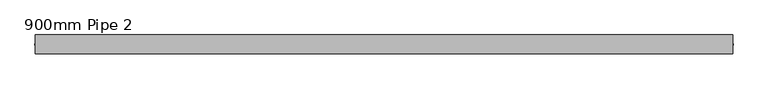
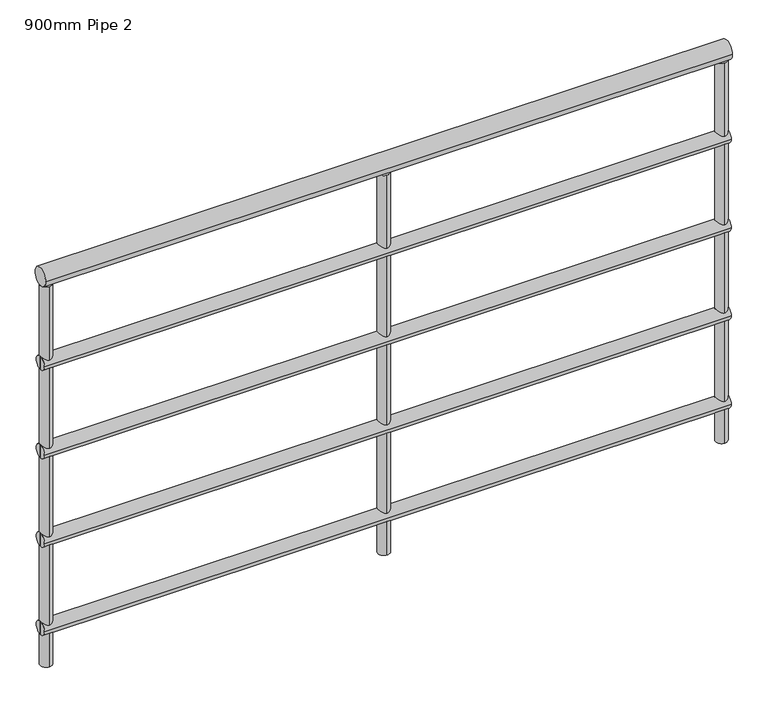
"""IFC4 building model written with IfcOpenShell, lengths in millimetres: railing geometry, 900mm Pipe 2."""

import ifcopenshell
import ifcopenshell.guid

model = None  # the IFC model being written
_history = None  # IfcOwnerHistory: only IFC2X3 demands one
_inside = {}  # id of a spatial element -> (the spatial element, [elements in it])
_under = {}  # id of a project, library or spatial element -> (it, [spatial elements below it])
_declared = {}  # id of a project -> (the project, [libraries it declares])
_typed = {}  # id of a type object -> (the type object, [elements of that type])
_made_of = {}  # id of a material, layer set ... -> (it, [elements and type objects made of it])


def new_model(schema):
    """Start an empty IFC model of exactly this schema.

    Asked for "IFC4X3", IfcOpenShell would pick the latest addendum, in which some entities
    have other attributes; the version numbers below select the first issue.
    IFC2X3 requires an IfcOwnerHistory on every rooted entity: one is made here for all.
    """
    global model, _history
    if schema == "IFC4X3":
        model = ifcopenshell.file(schema_version=(4, 3, 0, 0))
    else:
        model = ifcopenshell.file(schema=schema)
    _inside.clear()
    _under.clear()
    _declared.clear()
    _typed.clear()
    _made_of.clear()
    _history = None
    if model.schema == "IFC2X3":
        org = make("IfcOrganization", Name="unknown")
        user = make(
            "IfcPersonAndOrganization",
            ThePerson=make("IfcPerson", FamilyName="unknown"),
            TheOrganization=org,
        )
        app = make(
            "IfcApplication",
            ApplicationDeveloper=org,
            Version="unknown",
            ApplicationFullName="unknown",
            ApplicationIdentifier="unknown",
        )
        _history = make(
            "IfcOwnerHistory",
            OwningUser=user,
            OwningApplication=app,
            ChangeAction="ADDED",
            CreationDate=0,
        )
    return model


def make(cls, **values):
    """One entity of the class cls with the attributes given. An attribute that is None is left unset."""
    return model.create_entity(
        cls, **{name: value for name, value in values.items() if value is not None}
    )


def rooted(cls, **values):
    """An entity with a GlobalId (a new one), such as an element, a storey or a relation."""
    return make(cls, GlobalId=ifcopenshell.guid.new(), OwnerHistory=_history, **values)


def si_unit(unit_type, name, prefix=None):
    """IfcSIUnit, for example si_unit("LENGTHUNIT", "METRE", prefix="MILLI")."""
    return make("IfcSIUnit", UnitType=unit_type, Prefix=prefix, Name=name)


def assignment(units):
    """IfcUnitAssignment: the units of a project."""
    return None if units is None else make("IfcUnitAssignment", Units=units)


def point(xyz):
    """IfcCartesianPoint."""
    return None if xyz is None else make("IfcCartesianPoint", Coordinates=xyz)


def direction(xyz):
    """IfcDirection."""
    return None if xyz is None else make("IfcDirection", DirectionRatios=xyz)


def frame(location, z_axis=None, x_axis=None):
    """IfcAxis2Placement3D, a coordinate frame: its origin and axes. An axis left out is left unset."""
    return make(
        "IfcAxis2Placement3D",
        Location=point(location),
        Axis=direction(z_axis),
        RefDirection=direction(x_axis),
    )


def frame_2d(location, x_axis=None):
    """IfcAxis2Placement2D, a coordinate frame in the plane: its origin and x axis."""
    return make(
        "IfcAxis2Placement2D", Location=point(location), RefDirection=direction(x_axis)
    )


def origin():
    """The frame at (0, 0, 0) with its axes left unset."""
    return frame((0.0, 0.0, 0.0))


def origin_with_axes():
    """The frame at (0, 0, 0) with the z axis (0, 0, 1) and the x axis (1, 0, 0) written out."""
    return frame((0.0, 0.0, 0.0), z_axis=(0.0, 0.0, 1.0), x_axis=(1.0, 0.0, 0.0))


def place(relative_to, where):
    """IfcLocalPlacement: puts the frame where relative to a parent placement (None: the world)."""
    return make(
        "IfcLocalPlacement", PlacementRelTo=relative_to, RelativePlacement=where
    )


def context(
    kind, dimensions, precision=None, world=None, true_north=None, identifier=None
):
    """IfcGeometricRepresentationContext, for example the 3D "Model" context."""
    return make(
        "IfcGeometricRepresentationContext",
        ContextIdentifier=identifier,
        ContextType=kind,
        CoordinateSpaceDimension=dimensions,
        Precision=precision,
        WorldCoordinateSystem=world,
        TrueNorth=true_north,
    )


def project(units=None, contexts=None):
    """IfcProject with its units and contexts."""
    return rooted(
        "IfcProject",
        Name="project",
        RepresentationContexts=contexts,
        UnitsInContext=assignment(units),
    )


def spatial(cls, under=None, at=None, **own):
    """A site, building, storey or space (cls), placed at a placement, below another one or the project."""
    s = rooted(cls, ObjectPlacement=at, **own)
    if under is not None:
        _under.setdefault(under.id(), (under, []))[1].append(s)
    return s


def circle_curve(where, radius):
    """IfcCircle in the frame where."""
    return make("IfcCircle", Position=where, Radius=radius)


def trimmed(basis, trim1, trim2, sense, master):
    """IfcTrimmedCurve: the piece of a basis curve between two trims."""
    return make(
        "IfcTrimmedCurve",
        BasisCurve=basis,
        Trim1=trim1,
        Trim2=trim2,
        SenseAgreement=sense,
        MasterRepresentation=master,
    )


def segment(curve, same_sense, transition):
    """IfcCompositeCurveSegment."""
    return make(
        "IfcCompositeCurveSegment",
        Transition=transition,
        SameSense=same_sense,
        ParentCurve=curve,
    )


def composite_curve(segments, self_intersect=None):
    """IfcCompositeCurve: segments joined end to end."""
    return make("IfcCompositeCurve", Segments=segments, SelfIntersect=self_intersect)


def outline(outer, holes=None, kind="AREA"):
    """IfcArbitraryClosedProfileDef: a profile drawn as a closed curve; with holes, ...WithVoids."""
    if holes is None:
        return make("IfcArbitraryClosedProfileDef", ProfileType=kind, OuterCurve=outer)
    return make(
        "IfcArbitraryProfileDefWithVoids",
        ProfileType=kind,
        OuterCurve=outer,
        InnerCurves=holes,
    )


def extrude(swept, where, along, depth):
    """IfcExtrudedAreaSolid: the profile swept, set in the frame where, extruded along a direction by depth."""
    return make(
        "IfcExtrudedAreaSolid",
        SweptArea=swept,
        Position=where,
        ExtrudedDirection=direction(along),
        Depth=depth,
    )


def shape(context_of_items, identifier, shape_type, items):
    """IfcShapeRepresentation: the items that make up one representation, for example the "Body"."""
    return make(
        "IfcShapeRepresentation",
        ContextOfItems=context_of_items,
        RepresentationIdentifier=identifier,
        RepresentationType=shape_type,
        Items=items,
    )


def source(mapping_origin, context_of_items, identifier, shape_type, items):
    """IfcRepresentationMap: a shape defined once, which mapped items show again and again."""
    return make(
        "IfcRepresentationMap",
        MappingOrigin=mapping_origin,
        MappedRepresentation=shape(context_of_items, identifier, shape_type, items),
    )


def transform(
    local_origin,
    x_axis=None,
    y_axis=None,
    z_axis=None,
    scale=None,
    scale2=None,
    scale3=None,
    uniform=True,
):
    """IfcCartesianTransformationOperator3D, or its non-uniform kind. x_axis, y_axis, z_axis: its Axis1, 2, 3."""
    if uniform:
        return make(
            "IfcCartesianTransformationOperator3D",
            Axis1=direction(x_axis),
            Axis2=direction(y_axis),
            LocalOrigin=point(local_origin),
            Scale=scale,
            Axis3=direction(z_axis),
        )
    return make(
        "IfcCartesianTransformationOperator3DnonUniform",
        Axis1=direction(x_axis),
        Axis2=direction(y_axis),
        LocalOrigin=point(local_origin),
        Scale=scale,
        Axis3=direction(z_axis),
        Scale2=scale2,
        Scale3=scale3,
    )


def mapped(mapping_source, mapping_target):
    """IfcMappedItem: shows the shape of a source again, moved by a transform."""
    return make(
        "IfcMappedItem", MappingSource=mapping_source, MappingTarget=mapping_target
    )


def made_of(thing, what):
    """Note that an element or type object is made of a material, layer set ...; save() writes the relation."""
    if what is not None:
        _made_of.setdefault(what.id(), (what, []))[1].append(thing)
    return thing


def element(
    cls,
    number,
    at=None,
    inside=None,
    cuts=None,
    type_object=None,
    material=None,
    context=None,
    identifier="Body",
    shape_type=None,
    held_by="IfcProductDefinitionShape",
    body=None,
    shapes=None,
    **own,
):
    """One element of the class cls, such as IfcWall. Its Tag is "e" and its number.

    at: its placement. inside: the storey or other place that contains it. cuts: it is an
    opening in that element (IfcRelVoidsElement). A single representation is given by context,
    identifier, shape_type and body (its items); several are given by shapes. held_by: the class
    of the entity that holds the representations. save() writes the other relations.
    """
    e = rooted(cls, Tag="e%d" % number, ObjectPlacement=at, **own)
    if body is not None:
        shapes = [shape(context, identifier, shape_type, body)]
    if shapes is not None:
        e.Representation = make(held_by, Representations=shapes)
    if inside is not None:
        _inside.setdefault(inside.id(), (inside, []))[1].append(e)
    if cuts is not None:
        rooted(
            "IfcRelVoidsElement", RelatingBuildingElement=cuts, RelatedOpeningElement=e
        )
    if type_object is not None:
        _typed.setdefault(type_object.id(), (type_object, []))[1].append(e)
    return made_of(e, material)


def aggregate(whole, parts):
    """IfcRelAggregates: a whole, such as a stair, and the parts it consists of."""
    return rooted("IfcRelAggregates", RelatingObject=whole, RelatedObjects=parts)


def save(model, path):
    """Write the relations noted so far, then the file.

    IfcRelAggregates (storeys below a building ...), IfcRelContainedInSpatialStructure (elements
    in a storey), IfcRelDefinesByType, IfcRelAssociatesMaterial and IfcRelDeclares: one each for
    every whole, place, type object, material and project.
    """
    for whole, parts in _under.values():
        aggregate(whole, parts)
    for where, things in _inside.values():
        rooted(
            "IfcRelContainedInSpatialStructure",
            RelatedElements=things,
            RelatingStructure=where,
        )
    for kind, things in _typed.values():
        rooted("IfcRelDefinesByType", RelatedObjects=things, RelatingType=kind)
    for what, things in _made_of.values():
        rooted("IfcRelAssociatesMaterial", RelatedObjects=things, RelatingMaterial=what)
    for by, libraries in _declared.values():
        rooted("IfcRelDeclares", RelatingContext=by, RelatedDefinitions=libraries)
    model.write(path)


def railing_900mm_pipe_2_0036318b(model_context):
    return source(origin(), model_context, "Body", "SweptSolid", [
        extrude(outline(composite_curve([segment(trimmed(circle_curve(frame_2d((6283.1084635, 880.0)), 20.0), [point((6263.1084635, 880.0))], [point((6303.1084635, 880.0))], False, "CARTESIAN"), True, "CONTINUOUS"), segment(trimmed(circle_curve(frame_2d((6283.1084635, 880.0)), 20.0), [point((6303.1084635, 880.0))], [point((6263.1084635, 880.0))], False, "CARTESIAN"), True, "CONTINUOUS")], self_intersect=False)), frame((-3533.0419606, 0.0, 0.0), z_axis=(1.0, 0.0, 0.0), x_axis=(0.0, 1.0, 0.0)), (0.0, 0.0, 1.0), 1471.2152784),
        extrude(outline(composite_curve([segment(trimmed(circle_curve(frame_2d((6283.1084635, 685.0)), 15.0), [point((6268.1084635, 685.0))], [point((6298.1084635, 685.0))], False, "CARTESIAN"), True, "CONTINUOUS"), segment(trimmed(circle_curve(frame_2d((6283.1084635, 685.0)), 15.0), [point((6298.1084635, 685.0))], [point((6268.1084635, 685.0))], False, "CARTESIAN"), True, "CONTINUOUS")], self_intersect=False)), frame((-3533.0419606, 0.0, 0.0), z_axis=(1.0, 0.0, 0.0), x_axis=(0.0, 1.0, 0.0)), (0.0, 0.0, 1.0), 1471.2152784),
        extrude(outline(composite_curve([segment(trimmed(circle_curve(frame_2d((6283.1084635, 485.0)), 15.0), [point((6268.1084635, 485.0))], [point((6298.1084635, 485.0))], False, "CARTESIAN"), True, "CONTINUOUS"), segment(trimmed(circle_curve(frame_2d((6283.1084635, 485.0)), 15.0), [point((6298.1084635, 485.0))], [point((6268.1084635, 485.0))], False, "CARTESIAN"), True, "CONTINUOUS")], self_intersect=False)), frame((-3533.0419606, 0.0, 0.0), z_axis=(1.0, 0.0, 0.0), x_axis=(0.0, 1.0, 0.0)), (0.0, 0.0, 1.0), 1471.2152784),
        extrude(outline(composite_curve([segment(trimmed(circle_curve(frame_2d((6283.1084635, 285.0)), 15.0), [point((6268.1084635, 285.0))], [point((6298.1084635, 285.0))], False, "CARTESIAN"), True, "CONTINUOUS"), segment(trimmed(circle_curve(frame_2d((6283.1084635, 285.0)), 15.0), [point((6298.1084635, 285.0))], [point((6268.1084635, 285.0))], False, "CARTESIAN"), True, "CONTINUOUS")], self_intersect=False)), frame((-3533.0419606, 0.0, 0.0), z_axis=(1.0, 0.0, 0.0), x_axis=(0.0, 1.0, 0.0)), (0.0, 0.0, 1.0), 1471.2152784),
        extrude(outline(composite_curve([segment(trimmed(circle_curve(frame_2d((6283.1084635, 85.0)), 15.0), [point((6268.1084635, 85.0))], [point((6298.1084635, 85.0))], False, "CARTESIAN"), True, "CONTINUOUS"), segment(trimmed(circle_curve(frame_2d((6283.1084635, 85.0)), 15.0), [point((6298.1084635, 85.0))], [point((6268.1084635, 85.0))], False, "CARTESIAN"), True, "CONTINUOUS")], self_intersect=False)), frame((-3533.0419606, 0.0, 0.0), z_axis=(1.0, 0.0, 0.0), x_axis=(0.0, 1.0, 0.0)), (0.0, 0.0, 1.0), 1471.2152784),
        extrude(outline(composite_curve([segment(trimmed(circle_curve(frame_2d((-2797.4343214, 6283.1084635)), 12.5), [point((-2797.4343214, 6295.6084635))], [point((-2797.4343214, 6270.6084635))], False, "CARTESIAN"), True, "CONTINUOUS"), segment(trimmed(circle_curve(frame_2d((-2797.4343214, 6283.1084635)), 12.5), [point((-2797.4343214, 6270.6084635))], [point((-2797.4343214, 6295.6084635))], False, "CARTESIAN"), True, "CONTINUOUS")], self_intersect=False)), origin_with_axes(), (0.0, 0.0, 1.0), 860.0),
        extrude(outline(composite_curve([segment(trimmed(circle_curve(frame_2d((-2074.0132811, 6283.1084635)), 12.5), [point((-2074.0132811, 6295.6084635))], [point((-2074.0132811, 6270.6084635))], False, "CARTESIAN"), True, "CONTINUOUS"), segment(trimmed(circle_curve(frame_2d((-2074.0132811, 6283.1084635)), 12.5), [point((-2074.0132811, 6270.6084635))], [point((-2074.0132811, 6295.6084635))], False, "CARTESIAN"), True, "CONTINUOUS")], self_intersect=False)), origin_with_axes(), (0.0, 0.0, 1.0), 860.0),
        extrude(outline(composite_curve([segment(trimmed(circle_curve(frame_2d((-3520.8553617, 6283.1084635)), 12.5), [point((-3520.8553617, 6295.6084635))], [point((-3520.8553617, 6270.6084635))], False, "CARTESIAN"), True, "CONTINUOUS"), segment(trimmed(circle_curve(frame_2d((-3520.8553617, 6283.1084635)), 12.5), [point((-3520.8553617, 6270.6084635))], [point((-3520.8553617, 6295.6084635))], False, "CARTESIAN"), True, "CONTINUOUS")], self_intersect=False)), origin_with_axes(), (0.0, 0.0, 1.0), 860.0),
    ])


if __name__ == "__main__":
    model = new_model("IFC4")
    model_context = context("Model", 3, world=origin())
    ifc_project = project(units=[si_unit("LENGTHUNIT", "METRE", prefix="MILLI")], contexts=[model_context])
    site = spatial("IfcSite", under=ifc_project)
    building = spatial("IfcBuilding", under=site)
    placement = place(None, origin())
    railing_900mm_pipe_2_shape = railing_900mm_pipe_2_0036318b(model_context)
    element("IfcRailing", 1, ObjectType="900mm Pipe 2", at=placement, inside=building, context=model_context, shape_type="MappedRepresentation", body=[
        mapped(railing_900mm_pipe_2_shape, transform((0.0, 0.0, 0.0), x_axis=(1.0, 0.0, 0.0), y_axis=(0.0, 1.0, 0.0), z_axis=(0.0, 0.0, 1.0))),
    ])
    save(model, "model.ifc")
